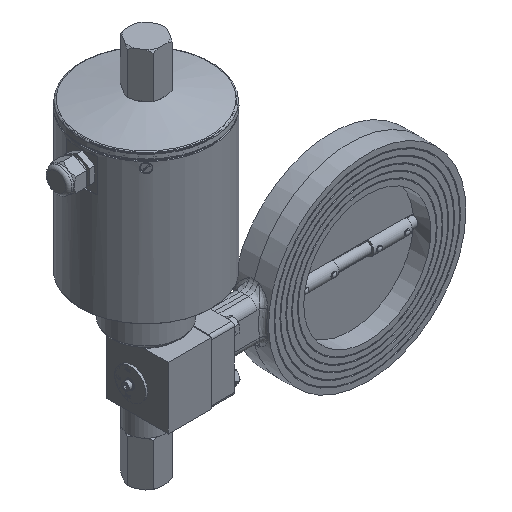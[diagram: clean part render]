
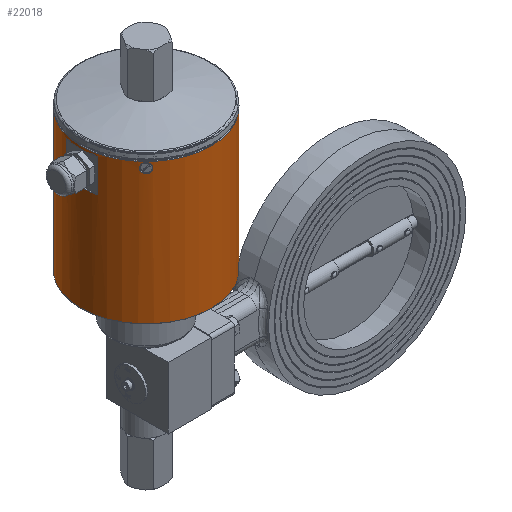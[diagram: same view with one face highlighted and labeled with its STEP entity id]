
A CAD part, isometric view. The second image highlights one B-rep face of the part: STEP entity #22018.
In plain terms, the highlighted cylindrical face has radius 63.5 mm (diameter 127 mm), a full revolution.
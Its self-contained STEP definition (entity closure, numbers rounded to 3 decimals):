
#21800=CARTESIAN_POINT('',(-44.901,-2.401,201.25));
#21801=VERTEX_POINT('',#21800);
#21802=CARTESIAN_POINT('',(-44.901,-2.401,210.75));
#21803=VERTEX_POINT('',#21802);
#21804=CARTESIAN_POINT('',(-44.901,-2.401,201.25));
#21805=CARTESIAN_POINT('',(-45.27,-2.032,201.25));
#21806=CARTESIAN_POINT('',(-45.655,-1.638,201.347));
#21807=CARTESIAN_POINT('',(-46.01,-1.265,201.544));
#21808=CARTESIAN_POINT('',(-46.371,-0.885,201.745));
#21809=CARTESIAN_POINT('',(-46.702,-0.527,202.048));
#21810=CARTESIAN_POINT('',(-46.974,-0.229,202.411));
#21811=CARTESIAN_POINT('',(-47.116,-0.073,202.6));
#21812=CARTESIAN_POINT('',(-47.241,0.066,202.801));
#21813=CARTESIAN_POINT('',(-47.357,0.197,203.026));
#21814=CARTESIAN_POINT('',(-47.584,0.451,203.464));
#21815=CARTESIAN_POINT('',(-47.765,0.657,203.984));
#21816=CARTESIAN_POINT('',(-47.878,0.787,204.531));
#21817=CARTESIAN_POINT('',(-47.977,0.901,205.012));
#21818=CARTESIAN_POINT('',(-48.025,0.957,205.514));
#21819=CARTESIAN_POINT('',(-48.026,0.957,205.99));
#21820=CARTESIAN_POINT('',(-48.026,0.958,206.198));
#21821=CARTESIAN_POINT('',(-48.018,0.948,206.411));
#21822=CARTESIAN_POINT('',(-47.999,0.927,206.625));
#21823=CARTESIAN_POINT('',(-47.953,0.873,207.178));
#21824=CARTESIAN_POINT('',(-47.841,0.744,207.737));
#21825=CARTESIAN_POINT('',(-47.668,0.548,208.241));
#21826=CARTESIAN_POINT('',(-47.539,0.401,208.619));
#21827=CARTESIAN_POINT('',(-47.376,0.218,208.966));
#21828=CARTESIAN_POINT('',(-47.195,0.016,209.263));
#21829=CARTESIAN_POINT('',(-47.095,-0.095,209.427));
#21830=CARTESIAN_POINT('',(-46.985,-0.216,209.581));
#21831=CARTESIAN_POINT('',(-46.866,-0.347,209.726));
#21832=CARTESIAN_POINT('',(-46.579,-0.661,210.075));
#21833=CARTESIAN_POINT('',(-46.236,-1.029,210.355));
#21834=CARTESIAN_POINT('',(-45.868,-1.414,210.529));
#21835=CARTESIAN_POINT('',(-45.553,-1.742,210.678));
#21836=CARTESIAN_POINT('',(-45.222,-2.081,210.75));
#21837=CARTESIAN_POINT('',(-44.901,-2.401,210.75));
#21838=B_SPLINE_CURVE_WITH_KNOTS('',3,(#21804,#21805,#21806,#21807,#21808,#21809,#21810,#21811,#21812,#21813,#21814,#21815,#21816,#21817,#21818,#21819,#21820,#21821,#21822,#21823,#21824,#21825,#21826,#21827,#21828,#21829,#21830,#21831,#21832,#21833,#21834,#21835,#21836,#21837),.UNSPECIFIED.,.F.,.U.,(4,3,3,3,3,3,3,3,3,3,3,4),(0.704,0.86,1.019,1.102,1.264,1.406,1.468,1.629,1.749,1.816,1.975,2.111),.UNSPECIFIED.);
#21839=EDGE_CURVE('',#21801,#21803,#21838,.T.);
#21841=CARTESIAN_POINT('',(-44.901,-2.401,210.75));
#21842=CARTESIAN_POINT('',(-44.531,-2.772,210.75));
#21843=CARTESIAN_POINT('',(-44.135,-3.158,210.652));
#21844=CARTESIAN_POINT('',(-43.76,-3.514,210.453));
#21845=CARTESIAN_POINT('',(-43.379,-3.877,210.251));
#21846=CARTESIAN_POINT('',(-43.02,-4.209,209.945));
#21847=CARTESIAN_POINT('',(-42.72,-4.481,209.579));
#21848=CARTESIAN_POINT('',(-42.562,-4.625,209.386));
#21849=CARTESIAN_POINT('',(-42.422,-4.751,209.182));
#21850=CARTESIAN_POINT('',(-42.291,-4.868,208.952));
#21851=CARTESIAN_POINT('',(-42.04,-5.092,208.514));
#21852=CARTESIAN_POINT('',(-41.836,-5.27,207.996));
#21853=CARTESIAN_POINT('',(-41.709,-5.382,207.451));
#21854=CARTESIAN_POINT('',(-41.637,-5.444,207.145));
#21855=CARTESIAN_POINT('',(-41.589,-5.486,206.831));
#21856=CARTESIAN_POINT('',(-41.563,-5.508,206.521));
#21857=CARTESIAN_POINT('',(-41.546,-5.522,206.31));
#21858=CARTESIAN_POINT('',(-41.54,-5.528,206.104));
#21859=CARTESIAN_POINT('',(-41.543,-5.525,205.898));
#21860=CARTESIAN_POINT('',(-41.552,-5.518,205.358));
#21861=CARTESIAN_POINT('',(-41.632,-5.449,204.787));
#21862=CARTESIAN_POINT('',(-41.786,-5.314,204.253));
#21863=CARTESIAN_POINT('',(-41.939,-5.18,203.721));
#21864=CARTESIAN_POINT('',(-42.166,-4.981,203.226));
#21865=CARTESIAN_POINT('',(-42.431,-4.743,202.818));
#21866=CARTESIAN_POINT('',(-42.535,-4.649,202.657));
#21867=CARTESIAN_POINT('',(-42.646,-4.549,202.507));
#21868=CARTESIAN_POINT('',(-42.767,-4.439,202.365));
#21869=CARTESIAN_POINT('',(-43.07,-4.163,202.008));
#21870=CARTESIAN_POINT('',(-43.429,-3.829,201.713));
#21871=CARTESIAN_POINT('',(-43.809,-3.468,201.521));
#21872=CARTESIAN_POINT('',(-44.169,-3.124,201.339));
#21873=CARTESIAN_POINT('',(-44.547,-2.756,201.25));
#21874=CARTESIAN_POINT('',(-44.901,-2.401,201.25));
#21875=B_SPLINE_CURVE_WITH_KNOTS('',3,(#21841,#21842,#21843,#21844,#21845,#21846,#21847,#21848,#21849,#21850,#21851,#21852,#21853,#21854,#21855,#21856,#21857,#21858,#21859,#21860,#21861,#21862,#21863,#21864,#21865,#21866,#21867,#21868,#21869,#21870,#21871,#21872,#21873,#21874),.UNSPECIFIED.,.F.,.U.,(4,3,3,3,3,3,3,3,3,3,3,4),(2.111,2.268,2.428,2.512,2.673,2.763,2.824,2.985,3.146,3.209,3.367,3.518),.UNSPECIFIED.);
#21876=EDGE_CURVE('',#21803,#21801,#21875,.T.);
#21886=CARTESIAN_POINT('',(-61.703,57.5,209.));
#21887=VERTEX_POINT('',#21886);
#21888=CARTESIAN_POINT('',(-61.703,27.5,209.));
#21889=VERTEX_POINT('',#21888);
#21896=CARTESIAN_POINT('',(0.,42.5,209.));
#21897=DIRECTION('',(0.0,0.0,1.0));
#21898=DIRECTION('',(1.0,0.0,0.0));
#21899=AXIS2_PLACEMENT_3D('',#21896,#21897,#21898);
#21900=CIRCLE('',#21899,63.5);
#21901=EDGE_CURVE('',#21887,#21889,#21900,.T.);
#21911=CARTESIAN_POINT('',(-61.703,27.5,177.));
#21912=VERTEX_POINT('',#21911);
#21913=CARTESIAN_POINT('',(-61.703,57.5,177.));
#21914=VERTEX_POINT('',#21913);
#21921=CARTESIAN_POINT('',(-61.703,27.5,209.));
#21922=DIRECTION('',(0.0,0.0,-1.0));
#21923=VECTOR('',#21922,32.0);
#21924=LINE('',#21921,#21923);
#21925=EDGE_CURVE('',#21889,#21912,#21924,.T.);
#21928=CARTESIAN_POINT('',(-61.703,57.5,177.));
#21929=DIRECTION('',(0.0,0.0,1.0));
#21930=VECTOR('',#21929,32.0);
#21931=LINE('',#21928,#21930);
#21932=EDGE_CURVE('',#21914,#21887,#21931,.T.);
#21951=CARTESIAN_POINT('',(0.,42.5,177.));
#21952=DIRECTION('',(0.0,0.0,-1.0));
#21953=DIRECTION('',(1.0,0.0,0.0));
#21954=AXIS2_PLACEMENT_3D('',#21951,#21952,#21953);
#21955=CIRCLE('',#21954,63.5);
#21956=EDGE_CURVE('',#21912,#21914,#21955,.T.);
#21977=CARTESIAN_POINT('',(-63.5,42.5,211.5));
#21978=VERTEX_POINT('',#21977);
#21979=CARTESIAN_POINT('',(0.,42.5,211.5));
#21980=DIRECTION('',(0.0,0.0,1.0));
#21981=DIRECTION('',(1.0,0.0,0.0));
#21982=AXIS2_PLACEMENT_3D('',#21979,#21980,#21981);
#21983=CIRCLE('',#21982,63.5);
#21984=EDGE_CURVE('',#21978,#21978,#21983,.T.);
#21989=CARTESIAN_POINT('',(0.,42.5,75.));
#21990=DIRECTION('',(0.,0.,1.0));
#21991=DIRECTION('',(1.0,0.0,0.0));
#21992=AXIS2_PLACEMENT_3D('',#21989,#21990,#21991);
#21993=CYLINDRICAL_SURFACE('',#21992,63.5);
#21994=CARTESIAN_POINT('',(-63.5,42.5,75.5));
#21995=VERTEX_POINT('',#21994);
#21996=CARTESIAN_POINT('',(0.,42.5,75.5));
#21997=DIRECTION('',(0.0,0.0,-1.0));
#21998=DIRECTION('',(1.0,0.0,0.0));
#21999=AXIS2_PLACEMENT_3D('',#21996,#21997,#21998);
#22000=CIRCLE('',#21999,63.5);
#22001=EDGE_CURVE('',#21995,#21995,#22000,.T.);
#22002=ORIENTED_EDGE('',*,*,#22001,.F.);
#22003=EDGE_LOOP('',(#22002));
#22004=FACE_OUTER_BOUND('',#22003,.T.);
#22005=ORIENTED_EDGE('',*,*,#21839,.T.);
#22006=ORIENTED_EDGE('',*,*,#21876,.T.);
#22007=EDGE_LOOP('',(#22005,#22006));
#22008=FACE_BOUND('',#22007,.T.);
#22009=ORIENTED_EDGE('',*,*,#21901,.T.);
#22010=ORIENTED_EDGE('',*,*,#21925,.T.);
#22011=ORIENTED_EDGE('',*,*,#21956,.T.);
#22012=ORIENTED_EDGE('',*,*,#21932,.T.);
#22013=EDGE_LOOP('',(#22009,#22010,#22011,#22012));
#22014=FACE_BOUND('',#22013,.T.);
#22015=ORIENTED_EDGE('',*,*,#21984,.F.);
#22016=EDGE_LOOP('',(#22015));
#22017=FACE_BOUND('',#22016,.T.);
#22018=ADVANCED_FACE('',(#22004,#22008,#22014,#22017),#21993,.T.);
